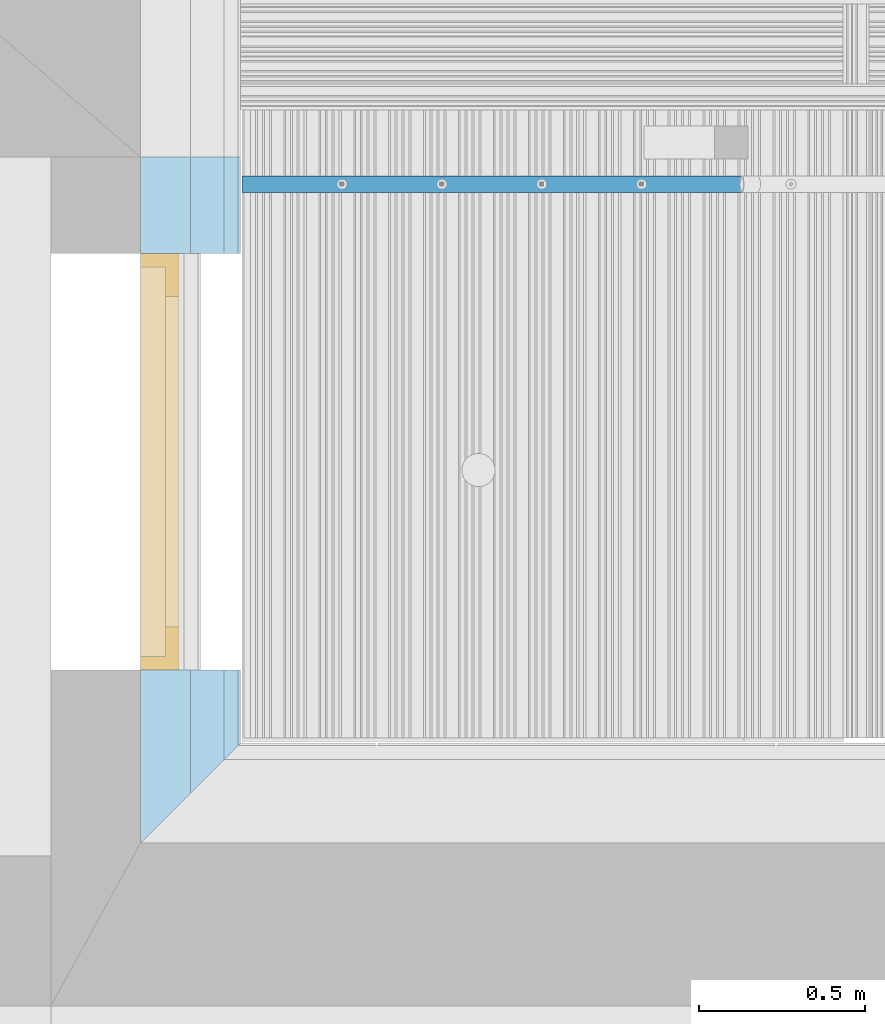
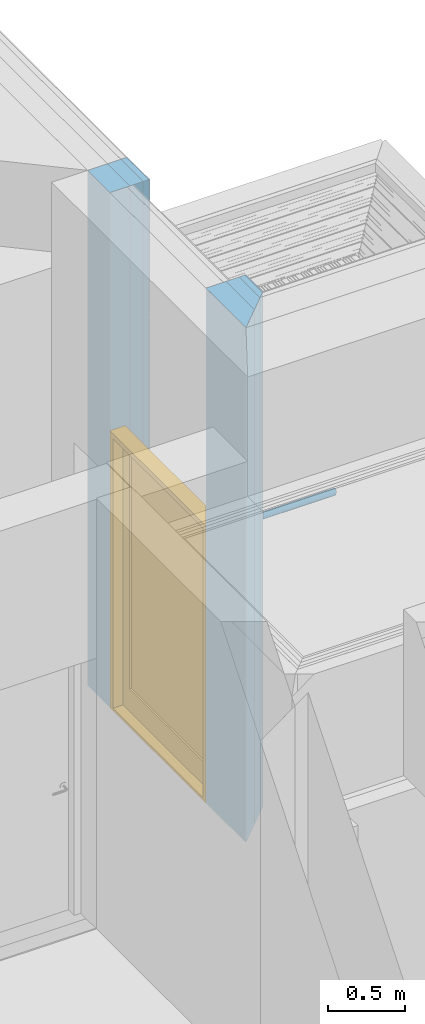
# One storey, part 124 of 418: 1 building element part, 1 door, 4 openings, 3 elements without a shape of their own, plus 4 elements that do not belong to this part.
"""IFC2X3 building model written with IfcOpenShell, lengths in millimetres."""

from ifc_helpers import new_model, entity, si_unit, converted_unit, derived_unit, money_unit, direction, frame, origin_with_axes, origin_2d_with_axis, place, context, subcontext, project, spatial, polyline, rectangle, outline, extrude, open_shell, faceted_brep, surface_model, material, type_object, element, fill, aggregate, save


model = new_model("IFC2X3")

# Units and contexts
model_context = context("Model", 3, precision=0.01, world=origin_with_axes(), true_north=direction((0.0, 1.0)))
body_context = subcontext(model_context, "Body", "Model", "MODEL_VIEW")
ifc_project = project(units=[si_unit("LENGTHUNIT", "METRE", prefix="MILLI"), si_unit("AREAUNIT", "SQUARE_METRE"), si_unit("VOLUMEUNIT", "CUBIC_METRE"), converted_unit("PLANEANGLEUNIT", "DEGREE", entity("IfcPlaneAngleMeasure", 0.0174532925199), si_unit("PLANEANGLEUNIT", "RADIAN"), dimensions=[0, 0, 0, 0, 0, 0, 0]), si_unit("SOLIDANGLEUNIT", "STERADIAN"), money_unit("EUR"), converted_unit("TIMEUNIT", "Year", entity("IfcTimeMeasure", 31556926.0), si_unit("TIMEUNIT", "SECOND"), dimensions=[0, 0, 1, 0, 0, 0, 0]), si_unit("MASSUNIT", "GRAM", prefix="KILO"), si_unit("THERMODYNAMICTEMPERATUREUNIT", "DEGREE_CELSIUS"), si_unit("LUMINOUSINTENSITYUNIT", "LUMEN"), si_unit("ENERGYUNIT", "JOULE", prefix="MEGA"), derived_unit("THERMALCONDUCTANCEUNIT", [(si_unit("POWERUNIT", "WATT"), 1), (si_unit("LENGTHUNIT", "METRE"), -1), (si_unit("THERMODYNAMICTEMPERATUREUNIT", "KELVIN"), -1)]), derived_unit("SPECIFICHEATCAPACITYUNIT", [(si_unit("ENERGYUNIT", "JOULE"), 1), (si_unit("MASSUNIT", "GRAM", prefix="KILO"), -1), (si_unit("THERMODYNAMICTEMPERATUREUNIT", "KELVIN"), -1)]), derived_unit("MASSDENSITYUNIT", [(si_unit("MASSUNIT", "GRAM", prefix="KILO"), 1), (si_unit("VOLUMEUNIT", "CUBIC_METRE"), -1)])], contexts=[model_context])

# Site, building, storey
site_placement = place(None, origin_with_axes())
site = spatial("IfcSite", under=ifc_project, at=site_placement, Name="Paldiski mnt 245/1, Tallinn, Harjumaa", CompositionType="COMPLEX")
building_placement = place(site_placement, origin_with_axes())
building = spatial("IfcBuilding", under=site, at=building_placement, Name="RKAS Hoone üldnimetus (kasutust iseloomustav) -> IFC Project Manager -> SOLIBRI", CompositionType="ELEMENT")
storey_placement = place(building_placement, origin_with_axes())
storey = spatial("IfcBuildingStorey", under=building, at=storey_placement, Name="Esimene korrus", CompositionType="ELEMENT", Elevation=0.0)

# Door
door_style = type_object("IfcDoorStyle", Name="Door 23", ConstructionType="NOTDEFINED", OperationType="SINGLE_SWING_RIGHT", ParameterTakesPrecedence=False, Sizeable=False)
wall_placement = place(storey_placement, frame((-47070.0, 6189.82872435, 0.0), z_axis=(0.0, 0.0, 1.0), x_axis=(0.0, 1.0, 0.0)))
opening_3_placement = place(wall_placement, frame((1144.99998843, 0.0, 0.0), z_axis=(0.0, 0.0, 1.0), x_axis=(1.0, 0.0, 0.0)))
door_placement = place(opening_3_placement, frame((625.0, 0.0, 0.0), z_axis=(0.0, 0.0, 1.0), x_axis=(-1.0, 0.0, 0.0)))
door = element("IfcDoor", 1, at=door_placement, inside=storey, type_object=door_style, Name="VU-03v", ObjectType="DOOR", OverallHeight=2200.0, OverallWidth=1250.0, context=body_context, shape_type="SurfaceModel", body=[
    faceted_brep([(1210.0, 0.0, 0.0), (1210.0, 75.0, 0.0), (1210.0, 75.0, 20.0), (1210.0, 0.0, 20.0), (40.0, 0.0, 0.0), (40.0, 75.0, 0.0), (28.0, 75.0, 0.0), (1222.0, 75.0, 0.0), (1222.0, 75.0, 20.0), (28.0, 75.0, 20.0), (40.0, 75.0, 20.0), (40.0, 0.0, 20.0)], [[[0, 1, 2, 3]], [[0, 4, 5, 6, 7, 1]], [[1, 7, 8, 2]], [[3, 2, 8, 9, 10, 11]], [[4, 0, 3, 11]], [[5, 4, 11, 10]], [[6, 5, 10, 9]], [[7, 6, 9, 8]]]),
    faceted_brep([(40.0, 75.0, 0.0), (40.0, 75.0, 2160.0), (40.0, 0.0, 2160.0), (40.0, 0.0, 0.0), (28.0, 75.0, 2160.0), (28.0, 75.0, 0.0), (28.0, 115.0, 2160.0), (0.0, 115.0, 2160.0), (0.0, 0.0, 2160.0), (0.0, 0.0, 0.0), (0.0, 115.0, 0.0), (28.0, 115.0, 0.0)], [[[0, 1, 2, 3]], [[4, 1, 0, 5]], [[4, 6, 7, 8, 2, 1]], [[3, 2, 8, 9]], [[5, 0, 3, 9, 10, 11]], [[6, 4, 5, 11]], [[6, 11, 10, 7]], [[10, 9, 8, 7]]]),
    faceted_brep([(1222.0, 75.0, 2160.0), (1210.0, 75.0, 2160.0), (1210.0, 0.0, 2160.0), (1250.0, 0.0, 2160.0), (1250.0, 115.0, 2160.0), (1222.0, 115.0, 2160.0), (1222.0, 75.0, 0.0), (1210.0, 75.0, 0.0), (1210.0, 0.0, 0.0), (1250.0, 0.0, 0.0), (1250.0, 115.0, 0.0), (1222.0, 115.0, 0.0)], [[[0, 1, 2, 3, 4, 5]], [[1, 0, 6, 7]], [[1, 7, 8, 2]], [[3, 2, 8, 9]], [[4, 3, 9, 10]], [[11, 5, 4, 10]], [[0, 5, 11, 6]], [[6, 11, 10, 9, 8, 7]]]),
    faceted_brep([(28.0, 115.0, 2172.0), (28.0, 115.0, 2160.0), (0.0, 115.0, 2160.0), (0.0, 115.0, 2200.0), (1250.0, 115.0, 2200.0), (1250.0, 115.0, 2160.0), (1222.0, 115.0, 2160.0), (1222.0, 115.0, 2172.0), (28.0, 75.0, 2172.0), (28.0, 75.0, 2160.0), (40.0, 75.0, 2160.0), (40.0, 0.0, 2160.0), (0.0, 0.0, 2160.0), (0.0, 0.0, 2200.0), (1250.0, 0.0, 2200.0), (1250.0, 0.0, 2160.0), (1222.0, 75.0, 2160.0), (1210.0, 0.0, 2160.0), (1210.0, 75.0, 2160.0), (1222.0, 75.0, 2172.0)], [[[0, 1, 2, 3, 4, 5, 6, 7]], [[1, 0, 8, 9]], [[9, 10, 11, 12, 2, 1]], [[2, 12, 13, 3]], [[3, 13, 14, 4]], [[4, 14, 15, 5]], [[16, 6, 5, 15, 17, 18]], [[7, 6, 16, 19]], [[0, 7, 19, 8]], [[16, 18, 10, 9, 8, 19]], [[10, 18, 17, 11]], [[17, 15, 14, 13, 12, 11]]]),
    faceted_brep([(1222.0, 115.0, 200.0), (1222.0, 75.0, 200.0), (1122.0, 75.0, 200.0), (1122.0, 115.0, 200.0), (1222.0, 115.0, 2072.0), (1222.0, 75.0, 2072.0), (1122.0, 75.0, 2072.0), (1122.0, 115.0, 2072.0)], [[[0, 1, 2, 3]], [[4, 5, 1, 0]], [[1, 5, 6, 2]], [[3, 2, 6, 7]], [[0, 3, 7, 4]], [[7, 6, 5, 4]]]),
    faceted_brep([(28.0, 115.0, 200.0), (28.0, 75.0, 200.0), (28.0, 75.0, 2072.0), (28.0, 115.0, 2072.0), (128.0, 115.0, 200.0), (128.0, 75.0, 200.0), (128.0, 75.0, 2072.0), (128.0, 115.0, 2072.0)], [[[0, 1, 2, 3]], [[4, 5, 1, 0]], [[1, 5, 6, 2]], [[3, 2, 6, 7]], [[0, 3, 7, 4]], [[7, 6, 5, 4]]]),
    faceted_brep([(1222.0, 115.0, 0.0), (1222.0, 75.0, 0.0), (28.0, 75.0, 0.0), (28.0, 115.0, 0.0), (1222.0, 115.0, 200.0), (1222.0, 75.0, 200.0), (1122.0, 75.0, 200.0), (128.0, 75.0, 200.0), (28.0, 75.0, 200.0), (28.0, 115.0, 200.0), (128.0, 115.0, 200.0), (1122.0, 115.0, 200.0)], [[[0, 1, 2, 3]], [[4, 5, 1, 0]], [[1, 5, 6, 7, 8, 2]], [[3, 2, 8, 9]], [[0, 3, 9, 10, 11, 4]], [[11, 6, 5, 4]], [[10, 7, 6, 11]], [[9, 8, 7, 10]]]),
    faceted_brep([(1222.0, 115.0, 2172.0), (1222.0, 75.0, 2172.0), (1222.0, 75.0, 2072.0), (1222.0, 115.0, 2072.0), (28.0, 115.0, 2172.0), (28.0, 75.0, 2172.0), (28.0, 75.0, 2072.0), (128.0, 75.0, 2072.0), (1122.0, 75.0, 2072.0), (1122.0, 115.0, 2072.0), (128.0, 115.0, 2072.0), (28.0, 115.0, 2072.0)], [[[0, 1, 2, 3]], [[4, 5, 1, 0]], [[1, 5, 6, 7, 8, 2]], [[3, 2, 8, 9]], [[0, 3, 9, 10, 11, 4]], [[11, 6, 5, 4]], [[10, 7, 6, 11]], [[9, 8, 7, 10]]]),
    surface_model("IfcShellBasedSurfaceModel", [(1122.0, 101.0, 200.0), (128.0, 101.0, 200.0), (128.0, 101.0, 2072.0), (1122.0, 101.0, 2072.0)], [open_shell([[[0, 1, 2, 3]]])]),
    surface_model("IfcShellBasedSurfaceModel", [(1122.0, 89.0, 200.0), (1122.0, 89.0, 2072.0), (128.0, 88.9999999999, 2072.0), (128.0, 88.9999999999, 200.0)], [open_shell([[[0, 1, 2, 3]]])]),
])

# Wall, openings
wall_type = type_object("IfcWallType", Name="VS-03L_uued_kihid 300", PredefinedType="NOTDEFINED")
wall = element("IfcWall", 2, at=wall_placement, inside=storey, type_object=wall_type, Name="VS-03")
opening_1_placement = place(wall_placement, frame((1370.08563782, 0.0, 2990.0), z_axis=(0.0, 0.0, 1.0), x_axis=(1.0, 0.0, 0.0)))
element("IfcOpeningElement", 3, at=opening_1_placement, cuts=wall, Name="Cembrit fassaadiplaadi vuuk", context=body_context, shape_type="SweptSolid", body=[
    extrude(outline(polyline([(-1070.08563782, 0.0), (1070.08563782, 0.0), (1070.08563782, 8.0), (-1070.08563782, 8.0), (-1070.08563782, 0.0)])), frame((0.0, -292.0, 0.0), z_axis=(0.0, -1.0, 0.0), x_axis=(1.0, 0.0, 0.0)), (0.0, 0.0, 1.0), 308.0),
])
opening_2_placement = place(wall_placement, frame((1370.08563782, 0.0, 1298.0), z_axis=(0.0, 0.0, 1.0), x_axis=(1.0, 0.0, 0.0)))
element("IfcOpeningElement", 4, at=opening_2_placement, cuts=wall, Name="Cembrit fassaadiplaadi vuuk", context=body_context, shape_type="SweptSolid", body=[
    extrude(outline(polyline([(-1070.08563782, 0.0), (1070.08563782, 0.0), (1070.08563782, 8.0), (-1070.08563782, 8.0), (-1070.08563782, 0.0)])), frame((0.0, -292.0, 0.0), z_axis=(0.0, -1.0, 0.0), x_axis=(1.0, 0.0, 0.0)), (0.0, 0.0, 1.0), 308.0),
])
opening_3 = element("IfcOpeningElement", 5, at=opening_3_placement, cuts=wall, Name="VU-03v", context=body_context, shape_type="SweptSolid", body=[
    extrude(rectangle(XDim=1250.0, YDim=2200.0, at=origin_2d_with_axis()), frame((0.0, -300.0, 1100.0), z_axis=(0.0, 1.0, 0.0), x_axis=(-1.0, 0.0, 0.0)), (0.0, 0.0, 1.0), 900.0),
])

fill(opening_3, door)

# Opening
opening_4_placement = place(wall_placement, frame((-6189.82872435, -47070.0, 0.0), z_axis=(0.0, 0.0, 1.0), x_axis=(0.0, -1.0, 0.0)))
element("IfcOpeningElement", 6, at=opening_4_placement, cuts=wall, Name="AVA", ObjectType="OPENING", context=body_context, shape_type="SweptSolid", body=[
    extrude(rectangle(XDim=1250.0, YDim=4090.0, at=origin_2d_with_axis()), frame((-47070.0, 7334.828725, 2045.0), z_axis=(1.0, 0.0, 0.0), x_axis=(0.0, 1.0, 0.0)), (0.0, 0.0, 1.0), 600.0),
])

# Building element part
ifc_material_1 = material(Name="Cembrit_C020")
building_element_part_1_placement = place(wall_placement, origin_with_axes())
building_element_part_1 = element("IfcBuildingElementPart", 7, at=building_element_part_1_placement, material=ifc_material_1, Name="Cembrit_C020", context=body_context, shape_type="SweptSolid", body=[
    extrude(outline(polyline([(300.0, -300.0), (2060.17127565, -300.0), (2060.17127565, -292.0), (292.0, -292.0), (300.0, -300.0)])), origin_with_axes(), (0.0, 0.0, 1.0), 4090.0),
])

ifc_material_2 = material(Name="VKR-06_Õhkvahe")
building_element_part_2_placement = place(wall_placement, origin_with_axes())
building_element_part_2 = element("IfcBuildingElementPart", 8, at=building_element_part_2_placement, material=ifc_material_2, Name="VKR-06_Õhkvahe", context=body_context, shape_type="SweptSolid", body=[
    extrude(outline(polyline([(292.0, -292.0), (2060.17127565, -292.0), (2060.17127565, -250.0), (250.0, -250.0), (292.0, -292.0)])), origin_with_axes(), (0.0, 0.0, 1.0), 4090.0),
])

ifc_material_3 = material(Name="Kingspan Kooltherm")
building_element_part_3_placement = place(wall_placement, origin_with_axes())
building_element_part_3 = element("IfcBuildingElementPart", 9, at=building_element_part_3_placement, material=ifc_material_3, Name="Kingspan Kooltherm", context=body_context, shape_type="SweptSolid", body=[
    extrude(outline(polyline([(250.0, -250.0), (2060.17127565, -250.0), (2060.17127565, -150.0), (150.0, -150.0), (250.0, -250.0)])), origin_with_axes(), (0.0, 0.0, 1.0), 4090.0),
])

building_element_part_4_placement = place(wall_placement, origin_with_axes())
building_element_part_4 = element("IfcBuildingElementPart", 10, at=building_element_part_4_placement, material=ifc_material_3, Name="Kingspan Kooltherm", context=body_context, shape_type="SweptSolid", body=[
    extrude(outline(polyline([(150.0, -150.0), (2060.17127565, -150.0), (2060.17127565, 0.0), (0.0, 0.0), (150.0, -150.0)])), origin_with_axes(), (0.0, 0.0, 1.0), 4090.0),
])

aggregate(wall, [building_element_part_1, building_element_part_2, building_element_part_3, building_element_part_4])

# Proxies, building element part
building_element_proxy_type_1 = type_object("IfcBuildingElementProxyType", Name="Railing Type", PredefinedType="NOTDEFINED")
proxy_1_placement = place(storey_placement, frame((-46765.0, 8168.75490532, -321.218687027), z_axis=(0.0, 0.0, 1.0), x_axis=(1.0, 0.0, 0.0)))
proxy_1 = element("IfcBuildingElementProxy", 11, at=proxy_1_placement, inside=storey, type_object=building_element_proxy_type_1, Name="Trepipiire")
building_element_proxy_type_2 = type_object("IfcBuildingElementProxyType", Name="IfcBuildingElementProxy", PredefinedType="NOTDEFINED")
proxy_2_placement = place(proxy_1_placement, frame((753.737126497, 0.0, 1245.31698759), z_axis=(0.0, 0.0, 1.0), x_axis=(1.0, 0.0, 0.0)))
proxy_2 = element("IfcBuildingElementProxy", 12, at=proxy_2_placement, type_object=building_element_proxy_type_2, Name="ÜL PIIRE - 001")
aggregate(proxy_1, [proxy_2])
ifc_material_4 = material(Name="RAL7016")
building_element_part_5_placement = place(proxy_2_placement, origin_with_axes())
building_element_part_5 = element("IfcBuildingElementPart", 13, at=building_element_part_5_placement, material=ifc_material_4, Name="RAL7016", context=body_context, shape_type="Brep", body=[
    faceted_brep([(-753.737126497, 25.0, 30.9016994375), (-753.737126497, 24.6201938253, 35.2429038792), (748.57067716, 24.6201938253, 35.2429038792), (747.485008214, 25.0, 30.9016994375), (-753.737126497, 24.6201938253, 26.5604949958), (-753.737126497, 23.4923155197, 22.3511958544), (-753.737126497, 21.6506350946, 18.4016994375), (-753.737126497, 19.151111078, 14.8320091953), (-753.737126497, 16.0696902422, 11.7505883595), (-753.737126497, 12.5, 9.25106434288), (-753.737126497, 8.55050358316, 7.40938391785), (-753.737126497, 4.34120444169, 6.28150561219), (-753.737126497, 0.0, 5.90169943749), (-753.737126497, -4.34120444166, 6.28150561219), (-753.737126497, -8.55050358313, 7.40938391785), (-753.737126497, -12.5, 9.25106434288), (-753.737126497, -16.0696902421, 11.7505883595), (-753.737126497, -19.151111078, 14.8320091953), (-753.737126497, -21.6506350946, 18.4016994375), (-753.737126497, -23.4923155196, 22.3511958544), (-753.737126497, -24.6201938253, 26.5604949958), (-753.737126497, -25.0, 30.9016994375), (-753.737126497, -24.6201938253, 35.2429038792), (-753.737126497, -23.4923155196, 39.4522030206), (-753.737126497, -21.6506350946, 43.4016994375), (-753.737126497, -19.151111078, 46.9713896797), (-753.737126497, -16.0696902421, 50.0528105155), (-753.737126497, -12.5, 52.5523345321), (-753.737126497, -8.55050358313, 54.3940149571), (-753.737126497, -4.34120444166, 55.5218932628), (-753.737126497, 0.0, 55.9016994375), (-753.737126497, 4.34120444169, 55.5218932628), (-753.737126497, 8.55050358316, 54.3940149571), (-753.737126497, 12.5, 52.5523345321), (-753.737126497, 16.0696902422, 50.0528105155), (-753.737126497, 19.151111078, 46.9713896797), (-753.737126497, 21.6506350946, 43.4016994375), (-753.737126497, 23.4923155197, 39.4522030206), (-753.737126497, 20.5, 30.9016994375), (-753.737126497, 20.1885589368, 34.4614870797), (-753.737126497, 19.2636987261, 37.9131123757), (-753.737126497, 17.7535207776, 41.1516994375), (-753.737126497, 15.703911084, 44.0788454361), (-753.737126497, 13.1771459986, 46.6056105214), (-753.737126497, 10.25, 48.6552202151), (-753.737126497, 7.01141293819, 50.1653981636), (-753.737126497, 3.55978764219, 51.0902583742), (-753.737126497, 0.0, 51.4016994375), (-753.737126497, -3.55978764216, 51.0902583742), (-753.737126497, -7.01141293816, 50.1653981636), (-753.737126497, -10.25, 48.6552202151), (-753.737126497, -13.1771459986, 46.6056105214), (-753.737126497, -15.7039110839, 44.0788454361), (-753.737126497, -17.7535207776, 41.1516994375), (-753.737126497, -19.2636987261, 37.9131123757), (-753.737126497, -20.1885589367, 34.4614870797), (-753.737126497, -20.5, 30.9016994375), (-753.737126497, -20.1885589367, 27.3419117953), (-753.737126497, -19.2636987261, 23.8902864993), (-753.737126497, -17.7535207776, 20.6516994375), (-753.737126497, -15.7039110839, 17.7245534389), (-753.737126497, -13.1771459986, 15.1977883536), (-753.737126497, -10.25, 13.1481786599), (-753.737126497, -7.01141293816, 11.6380007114), (-753.737126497, -3.55978764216, 10.7131405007), (-753.737126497, 0.0, 10.4016994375), (-753.737126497, 3.55978764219, 10.7131405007), (-753.737126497, 7.01141293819, 11.6380007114), (-753.737126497, 10.25, 13.1481786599), (-753.737126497, 13.1771459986, 15.1977883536), (-753.737126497, 15.703911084, 17.7245534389), (-753.737126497, 17.7535207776, 20.6516994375), (-753.737126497, 19.2636987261, 23.8902864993), (-753.737126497, 20.1885589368, 27.3419117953), (749.623358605, 23.4923155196, 39.4522030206), (750.611067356, 21.6506350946, 43.4016994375), (751.503792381, 19.151111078, 46.9713896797), (752.274408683, 16.0696902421, 50.0528105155), (752.899501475, 12.5, 52.5523345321), (753.360077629, 8.55050358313, 54.3940149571), (753.642142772, 4.34120444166, 55.5218932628), (753.737126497, 0.0, 55.9016994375), (753.642142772, -4.34120444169, 55.5218932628), (753.360077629, -8.55050358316, 54.3940149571), (752.899501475, -12.5, 52.5523345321), (752.274408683, -16.0696902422, 50.0528105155), (751.503792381, -19.151111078, 46.9713896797), (750.611067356, -21.6506350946, 43.4016994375), (749.623358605, -23.4923155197, 39.4522030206), (748.57067716, -24.6201938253, 35.2429038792), (747.485008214, -25.0, 30.9016994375), (746.399339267, -24.6201938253, 26.5604949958), (745.346657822, -23.4923155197, 22.3511958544), (744.358949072, -21.6506350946, 18.4016994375), (743.466224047, -19.151111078, 14.8320091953), (742.695607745, -16.0696902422, 11.7505883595), (742.070514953, -12.5, 9.25106434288), (741.609938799, -8.55050358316, 7.40938391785), (741.327873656, -4.34120444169, 6.28150561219), (741.23288993, 0.0, 5.90169943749), (741.327873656, 4.34120444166, 6.28150561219), (741.609938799, 8.55050358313, 7.40938391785), (742.070514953, 12.5, 9.25106434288), (742.695607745, 16.0696902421, 11.7505883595), (743.466224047, 19.151111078, 14.8320091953), (744.358949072, 21.6506350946, 18.4016994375), (745.346657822, 23.4923155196, 22.3511958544), (746.399339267, 24.6201938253, 26.5604949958), (747.485008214, 20.5, 30.9016994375), (746.594759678, 20.1885589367, 27.3419117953), (745.731560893, 19.2636987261, 23.8902864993), (744.921639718, 17.7535207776, 20.6516994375), (744.189605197, 15.7039110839, 17.7245534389), (743.557699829, 13.1771459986, 15.1977883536), (743.04512374, 10.25, 13.1481786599), (742.667451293, 7.01141293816, 11.6380007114), (742.436157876, 3.55978764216, 10.7131405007), (742.358271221, 0.0, 10.4016994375), (742.436157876, -3.55978764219, 10.7131405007), (742.667451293, -7.01141293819, 11.6380007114), (743.04512374, -10.25, 13.1481786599), (743.557699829, -13.1771459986, 15.1977883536), (744.189605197, -15.703911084, 17.7245534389), (744.921639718, -17.7535207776, 20.6516994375), (745.731560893, -19.2636987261, 23.8902864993), (746.594759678, -20.1885589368, 27.3419117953), (747.485008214, -20.5, 30.9016994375), (748.37525675, -20.1885589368, 34.4614870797), (749.238455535, -19.2636987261, 37.9131123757), (750.04837671, -17.7535207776, 41.1516994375), (750.780411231, -15.703911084, 44.0788454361), (751.412316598, -13.1771459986, 46.6056105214), (751.924892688, -10.25, 48.6552202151), (752.302565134, -7.01141293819, 50.1653981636), (752.533858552, -3.55978764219, 51.0902583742), (752.611745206, 0.0, 51.4016994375), (752.533858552, 3.55978764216, 51.0902583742), (752.302565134, 7.01141293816, 50.1653981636), (751.924892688, 10.25, 48.6552202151), (751.412316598, 13.1771459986, 46.6056105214), (750.780411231, 15.7039110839, 44.0788454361), (750.04837671, 17.7535207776, 41.1516994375), (749.238455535, 19.2636987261, 37.9131123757), (748.37525675, 20.1885589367, 34.4614870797)], [[[0, 1, 2, 3]], [[0, 4, 5, 6, 7, 8, 9, 10, 11, 12, 13, 14, 15, 16, 17, 18, 19, 20, 21, 22, 23, 24, 25, 26, 27, 28, 29, 30, 31, 32, 33, 34, 35, 36, 37, 1], [38, 39, 40, 41, 42, 43, 44, 45, 46, 47, 48, 49, 50, 51, 52, 53, 54, 55, 56, 57, 58, 59, 60, 61, 62, 63, 64, 65, 66, 67, 68, 69, 70, 71, 72, 73]], [[1, 37, 74, 2]], [[3, 2, 74, 75, 76, 77, 78, 79, 80, 81, 82, 83, 84, 85, 86, 87, 88, 89, 90, 91, 92, 93, 94, 95, 96, 97, 98, 99, 100, 101, 102, 103, 104, 105, 106, 107], [108, 109, 110, 111, 112, 113, 114, 115, 116, 117, 118, 119, 120, 121, 122, 123, 124, 125, 126, 127, 128, 129, 130, 131, 132, 133, 134, 135, 136, 137, 138, 139, 140, 141, 142, 143]], [[4, 0, 3, 107]], [[5, 4, 107, 106]], [[6, 5, 106, 105]], [[7, 6, 105, 104]], [[8, 7, 104, 103]], [[9, 8, 103, 102]], [[10, 9, 102, 101]], [[11, 10, 101, 100]], [[12, 11, 100, 99]], [[13, 12, 99, 98]], [[14, 13, 98, 97]], [[15, 14, 97, 96]], [[16, 15, 96, 95]], [[17, 16, 95, 94]], [[18, 17, 94, 93]], [[19, 18, 93, 92]], [[20, 19, 92, 91]], [[21, 20, 91, 90]], [[22, 21, 90, 89]], [[23, 22, 89, 88]], [[24, 23, 88, 87]], [[25, 24, 87, 86]], [[26, 25, 86, 85]], [[27, 26, 85, 84]], [[28, 27, 84, 83]], [[29, 28, 83, 82]], [[30, 29, 82, 81]], [[31, 30, 81, 80]], [[32, 31, 80, 79]], [[33, 32, 79, 78]], [[34, 33, 78, 77]], [[35, 34, 77, 76]], [[36, 35, 76, 75]], [[37, 36, 75, 74]], [[39, 38, 108, 143]], [[40, 39, 143, 142]], [[41, 40, 142, 141]], [[42, 41, 141, 140]], [[43, 42, 140, 139]], [[44, 43, 139, 138]], [[45, 44, 138, 137]], [[46, 45, 137, 136]], [[47, 46, 136, 135]], [[48, 47, 135, 134]], [[49, 48, 134, 133]], [[50, 49, 133, 132]], [[51, 50, 132, 131]], [[52, 51, 131, 130]], [[53, 52, 130, 129]], [[54, 53, 129, 128]], [[55, 54, 128, 127]], [[56, 55, 127, 126]], [[57, 56, 126, 125]], [[58, 57, 125, 124]], [[59, 58, 124, 123]], [[60, 59, 123, 122]], [[61, 60, 122, 121]], [[62, 61, 121, 120]], [[63, 62, 120, 119]], [[64, 63, 119, 118]], [[65, 64, 118, 117]], [[66, 65, 117, 116]], [[67, 66, 116, 115]], [[68, 67, 115, 114]], [[69, 68, 114, 113]], [[70, 69, 113, 112]], [[71, 70, 112, 111]], [[72, 71, 111, 110]], [[73, 72, 110, 109]], [[38, 73, 109, 108]]]),
])
aggregate(proxy_2, [building_element_part_5])

save(model, "model.ifc")
